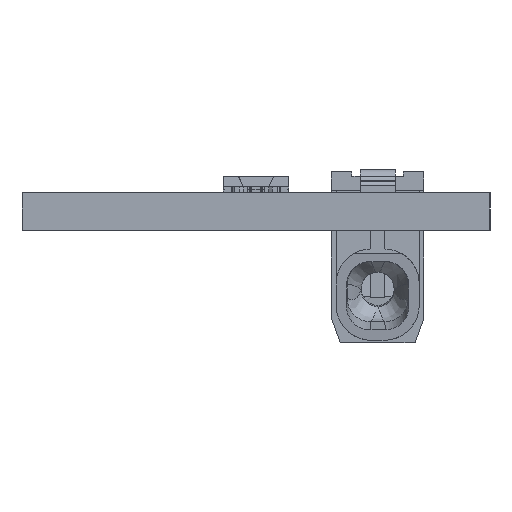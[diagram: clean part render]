
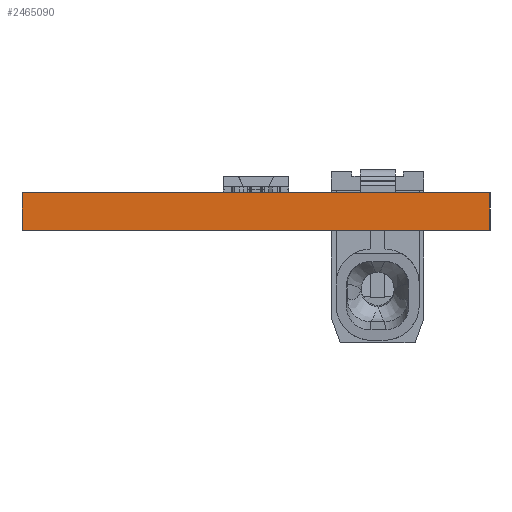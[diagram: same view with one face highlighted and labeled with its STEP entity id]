
A CAD part, left-side view. The second image highlights one B-rep face of the part: STEP entity #2465090.
In plain terms, the highlighted planar face has unit normal (-1, 0, 0).
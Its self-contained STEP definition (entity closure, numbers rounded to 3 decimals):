
#2458860=CARTESIAN_POINT('',(3.816,40.752,0.));
#2458870=DIRECTION('',(0.,-1.,0.));
#2458880=VECTOR('',#2458870,1.);
#2458890=LINE('',#2458860,#2458880);
#2458900=CARTESIAN_POINT('',(3.816,40.752,0.));
#2458910=VERTEX_POINT('',#2458900);
#2458920=CARTESIAN_POINT('',(3.816,20.752,0.));
#2458930=VERTEX_POINT('',#2458920);
#2458940=EDGE_CURVE('',#2458910,#2458930,#2458890,.T.);
#2464660=CARTESIAN_POINT('',(3.816,20.752,-1.6));
#2464670=VERTEX_POINT('',#2464660);
#2464700=CARTESIAN_POINT('',(3.816,20.752,-1.6));
#2464710=DIRECTION('',(0.,0.,1.));
#2464720=VECTOR('',#2464710,1.);
#2464730=LINE('',#2464700,#2464720);
#2464740=EDGE_CURVE('',#2464670,#2458930,#2464730,.T.);
#2464860=CARTESIAN_POINT('',(3.816,20.752,0.));
#2464870=DIRECTION('',(1.,0.,0.));
#2464880=DIRECTION('',(0.,-1.,0.));
#2464890=AXIS2_PLACEMENT_3D('',#2464860,#2464870,#2464880);
#2464900=PLANE('',#2464890);
#2464910=ORIENTED_EDGE('',*,*,#2458940,.F.);
#2464920=ORIENTED_EDGE('',*,*,#2464740,.T.);
#2464930=CARTESIAN_POINT('',(3.816,40.752,-1.6));
#2464940=DIRECTION('',(0.,-1.,0.));
#2464950=VECTOR('',#2464940,1.);
#2464960=LINE('',#2464930,#2464950);
#2464970=CARTESIAN_POINT('',(3.816,40.752,-1.6));
#2464980=VERTEX_POINT('',#2464970);
#2464990=EDGE_CURVE('',#2464980,#2464670,#2464960,.T.);
#2465000=ORIENTED_EDGE('',*,*,#2464990,.T.);
#2465010=CARTESIAN_POINT('',(3.816,40.752,-1.6));
#2465020=DIRECTION('',(0.,0.,1.));
#2465030=VECTOR('',#2465020,1.);
#2465040=LINE('',#2465010,#2465030);
#2465050=EDGE_CURVE('',#2464980,#2458910,#2465040,.T.);
#2465060=ORIENTED_EDGE('',*,*,#2465050,.F.);
#2465070=EDGE_LOOP('',(#2465060,#2465000,#2464920,#2464910));
#2465080=FACE_OUTER_BOUND('',#2465070,.T.);
#2465090=ADVANCED_FACE('',(#2465080),#2464900,.F.);
